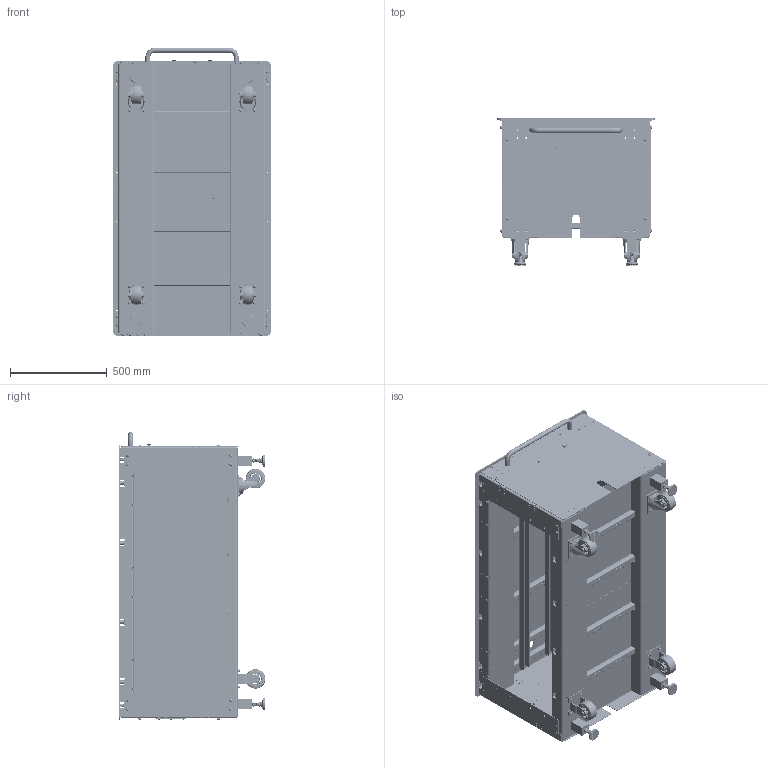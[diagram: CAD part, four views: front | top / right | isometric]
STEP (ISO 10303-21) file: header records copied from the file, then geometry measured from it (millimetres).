
FILE_DESCRIPTION (( 'STEP AP203' ), '1' );
FILE_NAME ('5012677_REV-B - VERSACART 1300 WITH BLANK TOP.STEP', '2024-12-11T17:48:42', ( '' ), ( '' ), 'SwSTEP 2.0', 'SolidWorks 2019', '' );
FILE_SCHEMA (( 'CONFIG_CONTROL_DESIGN' ));
Length unit declared in the file: inch
Products named in the file (43): M4 CAPTIVE NUT_99437A140; 5012717_Default Configuration; 5013665; 5011681_Default Configuration; 5012677_REV-B - VERSACART 1300 WITH BLANK TOP; 5011677_Default Configuration; 5008506_Default Configuration; M8x1.25 FHCS_FHCS M8x1.25x16-C; 5011683_Default Configuration; M6x1.0 FHCS_FHCS M6x1.0x14-C; 5011678; M6 CAPTIVE NUT_99437A160; M6X1.0 BHCS_BHCS M6x1.0 X 16mm; M6x1.0 SHCS_SHCS M6-1.0 x 12; 5012715_Default Configuration; M8 BELLEVILLE WASHER_95221A111; M4x0.7 FHCS_FHCS M4x0.7x16; 5008043_As Machined; 5011674_Default Configuration; M8x1.25 HEX NUT CLASS 8_M8 HEX NUT; 5011755; M6x1.0 FHCS_FHCS M6x1.0x18-C; 5003936_As Machined; M6x1.0 FHCS_FHCS M6x1.0x16-C; 5011373_Default Configuration; 0.25-20 HEX NUT UNC GRD5_0.25-20 HEX NUT-C; 5012087_Default Configuration; 5013670_Default Configuration; 5012775_6111K191; 5011622; 5011665_02 - FOR TOP LEVEL ASSEMBLY - 5012677; 5012102; 5012716_Default Configuration; 5008042_As Machined; 5013671_Default Configuration; M6 BELLEVILLE WASHER_M6 BELLEVILLE WASHER; 5011684; 5011621; M8X1.25 BHCS_BHCS M8x1.25 X 20mm; M6x1.0 SHCS_SHCS M6-1.0 x 80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
Assembly tree (518 placements, depth 3):
  5012677_REV-B - VERSACART 1300 WITH BLANK TOP
    5011665_02 - FOR TOP LEVEL ASSEMBLY - 5012677
      5011681_Default Configuration
      5011674_Default Configuration  x2
      5011684  x2
      5011682_Default Configuration  x4
      5011678  x10
      5011755
      5011683_Default Configuration
      5013670_Default Configuration
      5011677_Default Configuration  x2
      5013665  x2
      5013671_Default Configuration
      5008506_Default Configuration  x2
      5003936_As Machined
      5008042_As Machined  x2
      5008043_As Machined  x2
      5012775_6111K191  x4
      M8X1.25 BHCS_BHCS M8x1.25 X 20mm  x40
      M8 BELLEVILLE WASHER_95221A111  x48
      M8 CAPTIVE NUT_99437A170  x38
      M6x1.0 FHCS_FHCS M6x1.0x12-C  x21
      M6x1.0 FHCS_FHCS M6x1.0x16-C  x51
      M8x1.25 HEX NUT CLASS 8_M8 HEX NUT  x8
      M4 CAPTIVE NUT_99437A140  x12
      M6 CAPTIVE NUT_99437A160  x52
      M6x1.0 SHCS_SHCS M6-1.0 x 12  x42
      M6 BELLEVILLE WASHER_M6 BELLEVILLE WASHER  x42
      M6x1.0 SHCS_SHCS M6-1.0 x 80  x16
      M6x1.0 FHCS_FHCS M6x1.0x18-C  x4
      M8x1.25 FHCS_FHCS M8x1.25x16-C  x8
      0.25-20 HEX NUT UNC GRD5_0.25-20 HEX NUT-C  x2
      M6x1.0 FHCS_FHCS M6x1.0x14-C  x4
      M6X1.0 BHCS_BHCS M6x1.0 X 16mm  x4
      5011621  x20
      5011622  x40
      5011373_Default Configuration  x4
      5012102  x8
    5012717_Default Configuration
      5012715_Default Configuration
      5012716_Default Configuration
      M4x0.7 FHCS_FHCS M4x0.7x16  x12
  5012087_Default Configuration
Bounding box: 812.8 x 757.21 x 1489.46 mm (x, y, z)
Volume: 29244734.2 mm3; surface area: 16946913.6 mm2
Topology: 532 solids, 532 shells, 33912 faces, 92620 edges, 59790 vertices
Faces by surface type: plane 18822, cylinder 10422, cone 4124, torus 224, bspline 216, sphere 104
Entity records: 142144 total; most frequent: CARTESIAN_POINT 35672, DIRECTION 18801, ORIENTED_EDGE 18620, EDGE_CURVE 9310, AXIS2_PLACEMENT_3D 6881, VERTEX_POINT 6051, VECTOR 5039, LINE 5039
